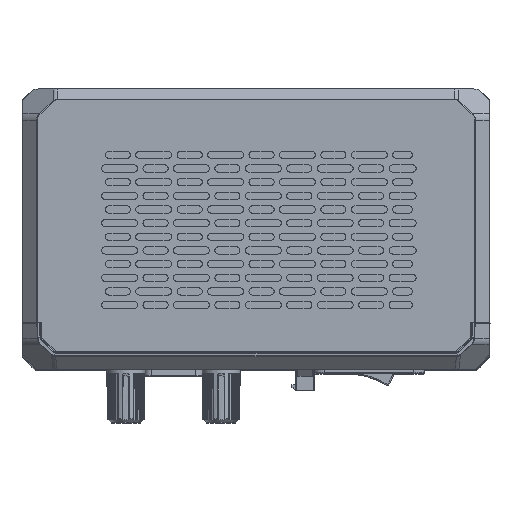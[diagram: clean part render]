
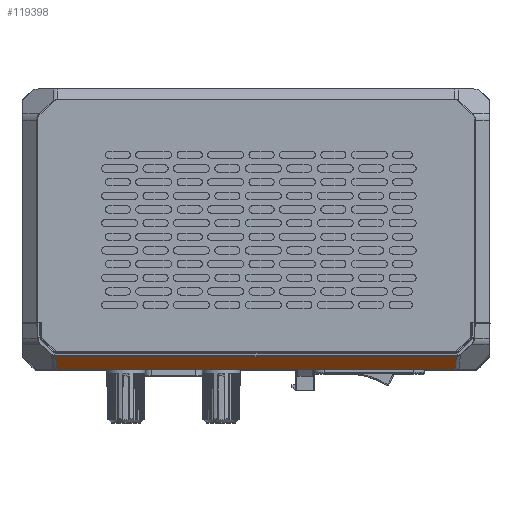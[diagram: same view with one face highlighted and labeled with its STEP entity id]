
A CAD part, top view. The second image highlights one B-rep face of the part: STEP entity #119398.
In plain terms, the highlighted planar face has unit normal (0, -0.693, 0.721).
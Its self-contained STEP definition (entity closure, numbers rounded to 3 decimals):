
#22216=DIRECTION('',(-0.093,-0.718,-0.69));
#22217=VECTOR('',#22216,4.931);
#22218=CARTESIAN_POINT('',(60.294,-63.461,
153.478));
#22219=LINE('',#22218,#22217);
#22220=DIRECTION('',(-1.,0.,0.));
#22221=VECTOR('',#22220,110.66);
#22222=CARTESIAN_POINT('',(59.838,-67.,
150.075));
#22223=LINE('',#22222,#22221);
#22224=DIRECTION('',(-0.093,0.718,0.69));
#22225=VECTOR('',#22224,4.931);
#22226=CARTESIAN_POINT('',(-50.822,-67.,
150.075));
#22227=LINE('',#22226,#22225);
#22236=CARTESIAN_POINT('',(60.294,-63.461,
153.478));
#22238=DIRECTION('',(-1.,0.,0.));
#22239=VECTOR('',#22238,111.573);
#22240=CARTESIAN_POINT('',(60.294,-63.461,
153.478));
#22241=LINE('',#22240,#22239);
#22284=CARTESIAN_POINT('',(-51.279,-63.461,
153.478));
#22286=CARTESIAN_POINT('',(-50.822,-67.,
150.075));
#88570=VERTEX_POINT('',#22286);
#88571=CARTESIAN_POINT('',(59.838,-67.,
150.075));
#88572=VERTEX_POINT('',#88571);
#88677=VERTEX_POINT('',#22284);
#88678=VERTEX_POINT('',#22236);
#119385=CARTESIAN_POINT('',(-51.913,-67.,
150.075));
#119386=DIRECTION('',(0.,-0.693,0.721));
#119387=DIRECTION('',(1.,0.,0.));
#119388=AXIS2_PLACEMENT_3D('',#119385,#119386,#119387);
#119389=PLANE('',#119388);
#119391=ORIENTED_EDGE('',*,*,#119390,.F.);
#119392=ORIENTED_EDGE('',*,*,#119262,.T.);
#119393=ORIENTED_EDGE('',*,*,#117788,.T.);
#119395=ORIENTED_EDGE('',*,*,#119394,.T.);
#119396=EDGE_LOOP('',(#119391,#119392,#119393,#119395));
#119397=FACE_OUTER_BOUND('',#119396,.F.);
#119398=ADVANCED_FACE('',(#119397),#119389,.T.);
#117788=EDGE_CURVE('',#88572,#88570,#22223,.T.);
#119262=EDGE_CURVE('',#88678,#88572,#22219,.T.);
#119390=EDGE_CURVE('',#88678,#88677,#22241,.T.);
#119394=EDGE_CURVE('',#88570,#88677,#22227,.T.);
